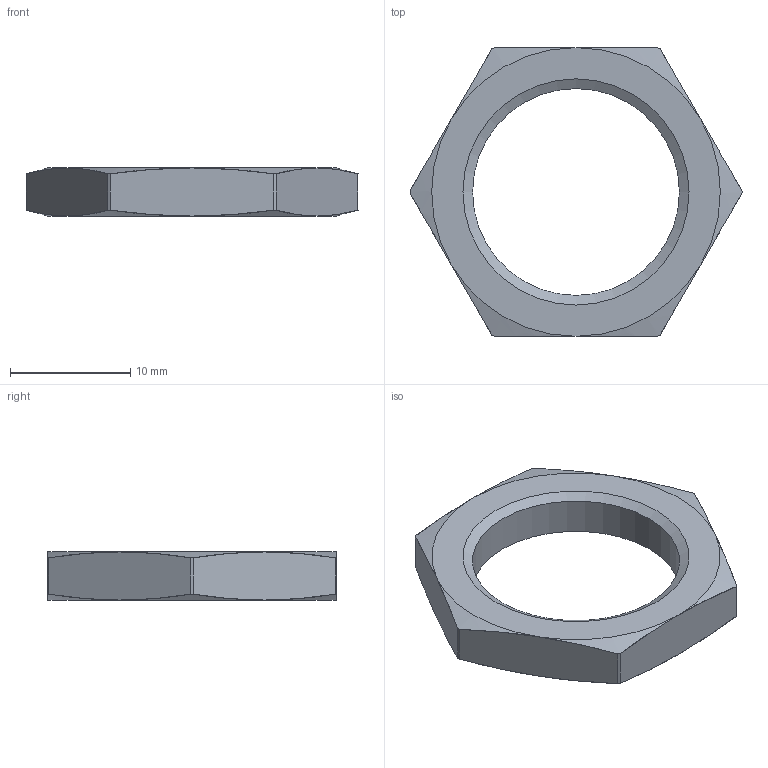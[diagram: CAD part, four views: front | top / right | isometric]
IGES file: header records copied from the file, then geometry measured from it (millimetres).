
Global section: file name: No Iges File Name specified; native system: AutoDesk Inventor R9; preprocessor: AutoDesk Inventor Iges Exporter R9; author: No Author specified; organization: No Organization specified; date: 20060821.144352; units: millimetre
Bounding box: 27.6 x 24 x 4 mm (x, y, z)
Surface area: 1020 mm2 (no closed solid volume)
Topology: 0 solids, 0 shells, 29 faces, 131 edges, 128 vertices
Faces by surface type: revolution 21, plane 8
